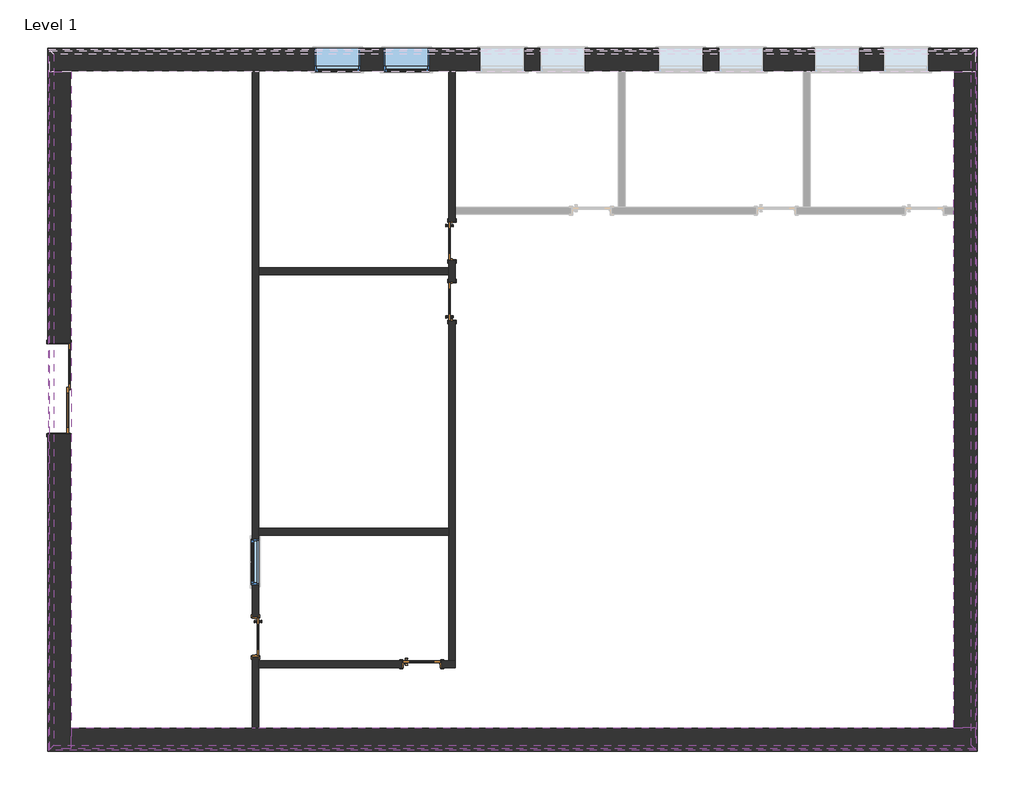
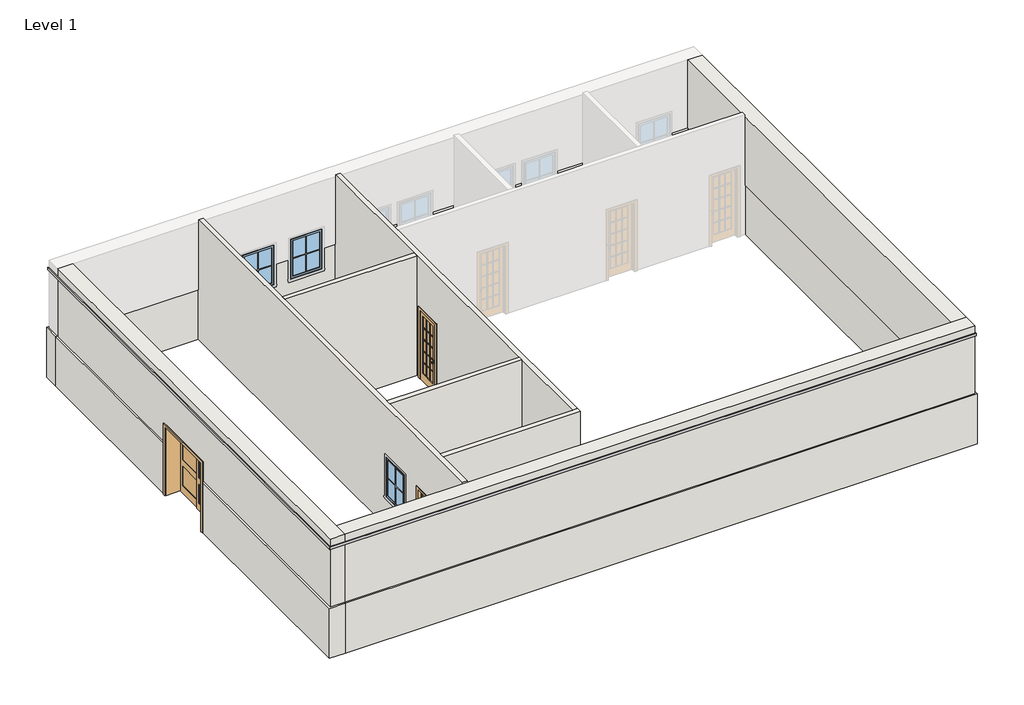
# One storey, part 1 of 2: 12 walls, 5 doors, 3 proxies, 3 windows.
"""IFC4 building model written with IfcOpenShell, lengths in millimetres."""

from ifc_helpers import new_model, si_unit, frame, origin, origin_with_axes, place, context, project, spatial, polyline, outline, extrude, faceted_brep, transform, mapped, element, save
from components import m_door_interior_double_sliding_2_panel_wood_1800_x_2100mm_ffb2e57d, m_door_interior_single_full_glass_wood_750_x_2100mm_ded28596, m_door_interior_single_full_glass_wood_750_x_2100mm_01f99739, window_awning_single_915_x_1220_b06b9331, window_awning_single_915_x_1220_806fc205

model = new_model("IFC4")

# Units and contexts
model_context = context("Model", 3, world=origin())
ifc_project = project(units=[si_unit("LENGTHUNIT", "METRE", prefix="MILLI")], contexts=[model_context])

# Site, building, storey
site = spatial("IfcSite", under=ifc_project)
building = spatial("IfcBuilding", under=site)
storey = spatial("IfcBuildingStorey", under=building, Name="Level 1", Elevation=0.0)

# Proxies
placement = place(None, origin())
element("IfcBuildingElementProxy", 1, Name="Reveals", at=placement, inside=storey, context=model_context, shape_type="SweptSolid", body=[
    extrude(outline(polyline([(-17378.8100037, -8493.7636534), (-17481.3100037, -8596.2636534), (-17481.3100037, 5536.7363466), (-17378.8100037, 5434.2363466), (-17378.8100037, -8493.7636534)])), frame((0.0, 0.0, 3300.0), z_axis=(0.0, 0.0, 1.0), x_axis=(1.0, 0.0, 0.0)), (0.0, 0.0, 1.0), 75.0),
])
element("IfcBuildingElementProxy", 2, Name="Reveals", at=placement, inside=storey, context=model_context, shape_type="SweptSolid", body=[
    extrude(outline(polyline([(1121.1899963, -8493.7636534), (1223.6899963, -8596.2636534), (-17481.3100037, -8596.2636534), (-17378.8100037, -8493.7636534), (1121.1899963, -8493.7636534)])), frame((0.0, 0.0, 3300.0), z_axis=(0.0, 0.0, 1.0), x_axis=(1.0, 0.0, 0.0)), (0.0, 0.0, 1.0), 75.0),
])
element("IfcBuildingElementProxy", 3, Name="Reveals", at=placement, inside=storey, context=model_context, shape_type="SweptSolid", body=[
    extrude(outline(polyline([(1121.1899963, 5434.2363466), (1223.6899963, 5536.7363466), (1223.6899963, -8596.2636534), (1121.1899963, -8493.7636534), (1121.1899963, 5434.2363466)])), frame((0.0, 0.0, 3300.0), z_axis=(0.0, 0.0, 1.0), x_axis=(1.0, 0.0, 0.0)), (0.0, 0.0, 1.0), 75.0),
])

# Doors
m_door_interior_double_sliding_2_panel_wood_1800_x_2100mm_shape = m_door_interior_double_sliding_2_panel_wood_1800_x_2100mm_ffb2e57d(model_context)
element("IfcDoor", 4, ObjectType="M_Door-Interior-Double-Sliding-2_Panel-Wood : 1800 x 2100mm", at=placement, inside=storey, context=model_context, shape_type="MappedRepresentation", body=[
    mapped(m_door_interior_double_sliding_2_panel_wood_1800_x_2100mm_shape, transform((-17269.6350037, -1306.0811162, 0.0), x_axis=(0.0, -1.0, 0.0), y_axis=(1.0, 0.0, 0.0), z_axis=(0.0, 0.0, 1.0))),
])
m_door_interior_single_full_glass_wood_750_x_2100mm_shape = m_door_interior_single_full_glass_wood_750_x_2100mm_ded28596(model_context)
element("IfcDoor", 5, ObjectType="M_Door-Interior-Single-Full Glass-Wood : 750 x 2100mm", at=placement, inside=storey, context=model_context, shape_type="MappedRepresentation", body=[
    mapped(m_door_interior_single_full_glass_wood_750_x_2100mm_shape, transform((-13307.6350037, -6311.9136534, 0.0), x_axis=(0.0, -1.0, 0.0), y_axis=(1.0, 0.0, 0.0), z_axis=(0.0, 0.0, 1.0))),
])
element("IfcDoor", 6, ObjectType="M_Door-Interior-Single-Full Glass-Wood : 750 x 2100mm", at=placement, inside=storey, context=model_context, shape_type="MappedRepresentation", body=[
    mapped(m_door_interior_single_full_glass_wood_750_x_2100mm_shape, transform((-9958.4100037, -6860.5886534, 0.0), x_axis=(1.0, 0.0, 0.0), y_axis=(0.0, 1.0, 0.0), z_axis=(0.0, 0.0, 1.0))),
])
element("IfcDoor", 7, ObjectType="M_Door-Interior-Single-Full Glass-Wood : 750 x 2100mm", at=placement, inside=storey, context=model_context, shape_type="MappedRepresentation", body=[
    mapped(m_door_interior_single_full_glass_wood_750_x_2100mm_shape, transform((-9351.9850037, 451.4363466, 0.0), x_axis=(0.0, 1.0, 0.0), y_axis=(-1.0, 0.0, 0.0), z_axis=(0.0, 0.0, 1.0))),
])
m_door_interior_single_full_glass_wood_750_x_2100mm_2_shape = m_door_interior_single_full_glass_wood_750_x_2100mm_01f99739(model_context)
element("IfcDoor", 8, ObjectType="M_Door-Interior-Single-Full Glass-Wood : 750 x 2100mm", at=placement, inside=storey, context=model_context, shape_type="MappedRepresentation", body=[
    mapped(m_door_interior_single_full_glass_wood_750_x_2100mm_2_shape, transform((-9351.9850037, 1670.6363466, 0.0), x_axis=(0.0, -1.0, 0.0), y_axis=(1.0, 0.0, 0.0), z_axis=(0.0, 0.0, 1.0))),
])

# Walls
element("IfcWall", 9, ObjectType="Exterior - Block on Mtl. Stud", at=placement, inside=storey, context=model_context, shape_type="Brep", body=[
    faceted_brep([(-17502.8100037, 5098.2363466, 0.0), (-17042.8100037, 5098.2363466, 0.0), (-13380.0600037, 5098.2363466, 0.0), (-13241.5600037, 5098.2363466, 0.0), (-9418.0600037, 5098.2363466, 0.0), (-9279.5600037, 5098.2363466, 0.0), (-5996.0100037, 5098.2363466, 0.0), (-5857.5100037, 5098.2363466, 0.0), (-2269.1600037, 5098.2363466, 0.0), (-2130.6600037, 5098.2363466, 0.0), (785.1899963, 5098.2363466, 0.0), (1245.1899963, 5098.2363466, 0.0), (1245.1899963, 5098.2363466, 1524.0), (785.1899963, 5098.2363466, 1524.0), (258.565007, 5098.2363466, 1524.0), (258.565007, 5098.2363466, 914.4), (-656.434993, 5098.2363466, 914.4), (-656.434993, 5098.2363466, 1524.0), (-1132.8100037, 5098.2363466, 1524.0), (-1132.8100037, 5098.2363466, 914.4), (-2047.8100037, 5098.2363466, 914.4), (-2047.8100037, 5098.2363466, 1524.0), (-2130.6600037, 5098.2363466, 1524.0), (-2269.1600037, 5098.2363466, 1524.0), (-3059.8100037, 5098.2363466, 1524.0), (-3059.8100037, 5098.2363466, 914.4), (-3974.8100037, 5098.2363466, 914.4), (-3974.8100037, 5098.2363466, 1524.0), (-4279.0100037, 5098.2363466, 1524.0), (-4279.0100037, 5098.2363466, 914.4), (-5194.0100037, 5098.2363466, 914.4), (-5194.0100037, 5098.2363466, 1524.0), (-5857.5100037, 5098.2363466, 1524.0), (-5996.0100037, 5098.2363466, 1524.0), (-6659.5100037, 5098.2363466, 1524.0), (-6659.5100037, 5098.2363466, 914.4), (-7574.5100037, 5098.2363466, 914.4), (-7574.5100037, 5098.2363466, 1524.0), (-7878.7100037, 5098.2363466, 1524.0), (-7878.7100037, 5098.2363466, 914.4), (-8793.7100037, 5098.2363466, 914.4), (-8793.7100037, 5098.2363466, 1524.0), (-9279.5600037, 5098.2363466, 1524.0), (-9418.0600037, 5098.2363466, 1524.0), (-9805.7100037, 5098.2363466, 1524.0), (-9805.7100037, 5098.2363466, 914.4), (-10720.7100037, 5098.2363466, 914.4), (-10720.7100037, 5098.2363466, 1524.0), (-11197.0850143, 5098.2363466, 1524.0), (-11197.0850143, 5098.2363466, 914.4), (-12112.0850143, 5098.2363466, 914.4), (-12112.0850143, 5098.2363466, 1524.0), (-13241.5600037, 5098.2363466, 1524.0), (-13380.0600037, 5098.2363466, 1524.0), (-17042.8100037, 5098.2363466, 1524.0), (-17502.8100037, 5098.2363466, 1524.0), (1245.1899963, 5558.2363466, 0.0), (-17502.8100037, 5558.2363466, 0.0), (-17502.8100037, 5558.2363466, 1524.0), (-12112.0850143, 5558.2363466, 1524.0), (-12112.0850143, 5558.2363466, 914.4), (-11197.0850143, 5558.2363466, 914.4), (-11197.0850143, 5558.2363466, 1524.0), (-10720.7100037, 5558.2363466, 1524.0), (-10720.7100037, 5558.2363466, 914.4), (-9805.7100037, 5558.2363466, 914.4), (-9805.7100037, 5558.2363466, 1524.0), (-8793.7100037, 5558.2363466, 1524.0), (-8793.7100037, 5558.2363466, 914.4), (-7878.7100037, 5558.2363466, 914.4), (-7878.7100037, 5558.2363466, 1524.0), (-7574.5100037, 5558.2363466, 1524.0), (-7574.5100037, 5558.2363466, 914.4), (-6659.5100037, 5558.2363466, 914.4), (-6659.5100037, 5558.2363466, 1524.0), (-5194.0100037, 5558.2363466, 1524.0), (-5194.0100037, 5558.2363466, 914.4), (-4279.0100037, 5558.2363466, 914.4), (-4279.0100037, 5558.2363466, 1524.0), (-3974.8100037, 5558.2363466, 1524.0), (-3974.8100037, 5558.2363466, 914.4), (-3059.8100037, 5558.2363466, 914.4), (-3059.8100037, 5558.2363466, 1524.0), (-2047.8100037, 5558.2363466, 1524.0), (-2047.8100037, 5558.2363466, 914.4), (-1132.8100037, 5558.2363466, 914.4), (-1132.8100037, 5558.2363466, 1524.0), (-656.434993, 5558.2363466, 1524.0), (-656.434993, 5558.2363466, 914.4), (258.565007, 5558.2363466, 914.4), (258.565007, 5558.2363466, 1524.0), (1245.1899963, 5558.2363466, 1524.0), (-12112.0850143, 5509.2363466, 1524.0), (258.565007, 5509.2363466, 1524.0), (-2047.8100037, 5509.2363466, 1524.0), (-3059.8100037, 5509.2363466, 1524.0), (-1132.8100037, 5509.2363466, 1524.0), (-656.434993, 5509.2363466, 1524.0), (-3974.8100037, 5509.2363466, 1524.0), (-4279.0100037, 5509.2363466, 1524.0), (-5194.0100037, 5509.2363466, 1524.0), (-6659.5100037, 5509.2363466, 1524.0), (-7574.5100037, 5509.2363466, 1524.0), (-7878.7100037, 5509.2363466, 1524.0), (-8793.7100037, 5509.2363466, 1524.0), (-9805.7100037, 5509.2363466, 1524.0), (-11197.0850143, 5509.2363466, 1524.0), (-10720.7100037, 5509.2363466, 1524.0)], [[[0, 1, 2, 3, 4, 5, 6, 7, 8, 9, 10, 11, 12, 13, 14, 15, 16, 17, 18, 19, 20, 21, 22, 23, 24, 25, 26, 27, 28, 29, 30, 31, 32, 33, 34, 35, 36, 37, 38, 39, 40, 41, 42, 43, 44, 45, 46, 47, 48, 49, 50, 51, 52, 53, 54, 55]], [[56, 57, 58, 59, 60, 61, 62, 63, 64, 65, 66, 67, 68, 69, 70, 71, 72, 73, 74, 75, 76, 77, 78, 79, 80, 81, 82, 83, 84, 85, 86, 87, 88, 89, 90, 91]], [[11, 10, 9, 8, 7, 6, 5, 4, 3, 2, 1, 0, 57, 56]], [[58, 55, 54, 53, 52, 51, 92, 59]], [[12, 91, 90, 93, 14, 13]], [[21, 94, 83, 82, 95, 24, 23, 22]], [[86, 96, 18, 17, 97, 87]], [[27, 98, 79, 78, 99, 28]], [[31, 100, 75, 74, 101, 34, 33, 32]], [[37, 102, 71, 70, 103, 38]], [[41, 104, 67, 66, 105, 44, 43, 42]], [[62, 106, 48, 47, 107, 63]], [[0, 55, 58, 57]], [[12, 11, 56, 91]], [[20, 84, 83, 94, 21]], [[84, 20, 19, 85]], [[85, 19, 18, 96, 86]], [[16, 88, 87, 97, 17]], [[88, 16, 15, 89]], [[89, 15, 14, 93, 90]], [[26, 80, 79, 98, 27]], [[80, 26, 25, 81]], [[81, 25, 24, 95, 82]], [[30, 76, 75, 100, 31]], [[76, 30, 29, 77]], [[77, 29, 28, 99, 78]], [[73, 35, 34, 101, 74]], [[35, 73, 72, 36]], [[36, 72, 71, 102, 37]], [[69, 39, 38, 103, 70]], [[39, 69, 68, 40]], [[40, 68, 67, 104, 41]], [[61, 49, 48, 106, 62]], [[49, 61, 60, 50]], [[50, 60, 59, 92, 51]], [[65, 45, 44, 105, 66]], [[45, 65, 64, 46]], [[46, 64, 63, 107, 47]]]),
])
element("IfcWall", 10, ObjectType="Exterior - Block on Mtl. Stud", at=placement, inside=storey, context=model_context, shape_type="Brep", body=[
    faceted_brep([(-17042.8100037, 5098.2363466, 0.0), (-17042.8100037, 5098.2363466, 1524.0), (-17042.8100037, -381.0811162, 1524.0), (-17042.8100037, -381.0811162, 0.0), (-17502.8100037, 5098.2363466, 1524.0), (-17502.8100037, 5098.2363466, 0.0), (-17502.8100037, -381.0811162, 0.0), (-17502.8100037, -381.0811162, 1524.0), (-17453.8100037, -381.0811162, 1524.0)], [[[0, 1, 2, 3]], [[4, 5, 6, 7]], [[5, 0, 3, 6]], [[1, 4, 7, 8, 2]], [[1, 0, 5, 4]], [[3, 2, 8, 7, 6]]]),
    faceted_brep([(-17042.8100037, -8617.7636534, 1524.0), (-17042.8100037, -8617.7636534, 0.0), (-17042.8100037, -8157.7636534, 0.0), (-17042.8100037, -2231.0811162, 0.0), (-17042.8100037, -2231.0811162, 1524.0), (-17042.8100037, -8157.7636534, 1524.0), (-17502.8100037, -8617.7636534, 0.0), (-17502.8100037, -8617.7636534, 1524.0), (-17502.8100037, -2231.0811162, 1524.0), (-17502.8100037, -2231.0811162, 0.0), (-17453.8100037, -2231.0811162, 1524.0)], [[[0, 1, 2, 3, 4, 5]], [[6, 7, 8, 9]], [[1, 6, 9, 3, 2]], [[7, 0, 5, 4, 10, 8]], [[1, 0, 7, 6]], [[4, 3, 9, 8, 10]]]),
])
element("IfcWall", 11, ObjectType="Exterior - Block on Mtl. Stud", at=placement, inside=storey, context=model_context, shape_type="Brep", body=[
    faceted_brep([(1245.1899963, -8157.7636534, 0.0), (785.1899963, -8157.7636534, 0.0), (-13241.5600037, -8157.7636534, 0.0), (-13380.0600037, -8157.7636534, 0.0), (-17042.8100037, -8157.7636534, 0.0), (-17042.8100037, -8157.7636534, 1524.0), (-13380.0600037, -8157.7636534, 1524.0), (-13241.5600037, -8157.7636534, 1524.0), (785.1899963, -8157.7636534, 1524.0), (1245.1899963, -8157.7636534, 1524.0), (1245.1899963, -8617.7636534, 0.0), (1245.1899963, -8617.7636534, 1524.0), (-17042.8100037, -8617.7636534, 1524.0), (-17042.8100037, -8617.7636534, 0.0)], [[[0, 1, 2, 3, 4, 5, 6, 7, 8, 9]], [[10, 11, 12, 13]], [[4, 3, 2, 1, 0, 10, 13]], [[9, 8, 7, 6, 5, 12, 11]], [[0, 9, 11, 10]], [[5, 4, 13, 12]]]),
])
element("IfcWall", 12, ObjectType="Exterior - Block on Mtl. Stud", at=placement, inside=storey, context=model_context, shape_type="Brep", body=[
    faceted_brep([(785.1899963, 5098.2363466, 0.0), (785.1899963, 2349.4863466, 0.0), (785.1899963, 2210.9863466, 0.0), (785.1899963, -8157.7636534, 0.0), (785.1899963, -8157.7636534, 1524.0), (785.1899963, 2210.9863466, 1524.0), (785.1899963, 2349.4863466, 1524.0), (785.1899963, 5098.2363466, 1524.0), (1245.1899963, 5098.2363466, 0.0), (1245.1899963, 5098.2363466, 1524.0), (1245.1899963, -8157.7636534, 1524.0), (1245.1899963, -8157.7636534, 0.0)], [[[0, 1, 2, 3, 4, 5, 6, 7]], [[8, 9, 10, 11]], [[3, 2, 1, 0, 8, 11]], [[7, 6, 5, 4, 10, 9]], [[0, 7, 9, 8]], [[4, 3, 11, 10]]]),
])
element("IfcWall", 13, ObjectType="Exterior - Render on Brick on Block", at=placement, inside=storey, context=model_context, shape_type="Brep", body=[
    faceted_brep([(-17024.8100037, 5080.2363466, 3600.0), (-17024.8100037, -8139.7636534, 3600.0), (-17024.8100037, -8568.7636534, 3600.0), (-17024.8100037, -8568.7636534, 3375.0), (-17024.8100037, -8493.7636534, 3375.0), (-17024.8100037, -8493.7636534, 3300.0), (-17024.8100037, -8568.7636534, 3300.0), (-17024.8100037, -8568.7636534, 1524.0), (-17024.8100037, -8139.7636534, 1524.0), (-17024.8100037, -2231.0811162, 1524.0), (-17024.8100037, -2231.0811162, 2125.0), (-17024.8100037, -381.0811162, 2125.0), (-17024.8100037, -381.0811162, 1524.0), (-17024.8100037, 5080.2363466, 1524.0), (-17453.8100037, -8568.7636534, 3600.0), (-17453.8100037, 5080.2363466, 3600.0), (-17453.8100037, 5080.2363466, 3375.0), (-17453.8100037, -8568.7636534, 3375.0), (-17453.8100037, -2231.0811162, 1524.0), (-17453.8100037, -8568.7636534, 1524.0), (-17453.8100037, -8568.7636534, 3300.0), (-17453.8100037, 5080.2363466, 3300.0), (-17453.8100037, 5080.2363466, 1524.0), (-17453.8100037, -381.0811162, 1524.0), (-17453.8100037, -381.0811162, 2125.0), (-17453.8100037, -2231.0811162, 2125.0), (-17428.8100037, -8568.7636534, 1524.0), (-17428.8100037, -2231.0811162, 1524.0), (-17042.8100037, -2231.0811162, 1524.0), (-17428.8100037, 5080.2363466, 1524.0), (-17042.8100037, -381.0811162, 1524.0), (-17428.8100037, -381.0811162, 1524.0), (-17378.8100037, -8493.7636534, 3300.0), (-17378.8100037, -8493.7636534, 3375.0), (-17378.8100037, 5080.2363466, 3375.0), (-17378.8100037, 5080.2363466, 3300.0)], [[[0, 1, 2, 3, 4, 5, 6, 7, 8, 9, 10, 11, 12, 13]], [[14, 15, 16, 17]], [[18, 19, 20, 21, 22, 23, 24, 25]], [[2, 1, 0, 15, 14]], [[7, 26, 27, 28, 9, 8]], [[29, 13, 12, 30, 31]], [[32, 33, 34, 35]], [[2, 14, 17, 3]], [[26, 7, 6, 20, 19]], [[0, 13, 29, 22, 21, 35, 34, 16, 15]], [[26, 19, 18, 27]], [[22, 29, 31, 23]], [[34, 33, 4, 3, 17, 16]], [[32, 35, 21, 20, 6, 5]], [[33, 32, 5, 4]], [[25, 10, 9, 28, 27, 18]], [[10, 25, 24, 11]], [[11, 24, 23, 31, 30, 12]]]),
])
element("IfcWall", 14, ObjectType="Exterior - Render on Brick on Block", at=placement, inside=storey, context=model_context, shape_type="Brep", body=[
    faceted_brep([(1196.1899963, -8139.7636534, 1524.0), (767.1899963, -8139.7636534, 1524.0), (-13241.5600037, -8139.7636534, 1524.0), (-13380.0600037, -8139.7636534, 1524.0), (-17024.8100037, -8139.7636534, 1524.0), (-17024.8100037, -8139.7636534, 3600.0), (767.1899963, -8139.7636534, 3600.0), (1196.1899963, -8139.7636534, 3600.0), (1196.1899963, -8139.7636534, 3375.0), (1121.1899963, -8139.7636534, 3375.0), (1121.1899963, -8139.7636534, 3300.0), (1196.1899963, -8139.7636534, 3300.0), (1196.1899963, -8568.7636534, 3600.0), (-17024.8100037, -8568.7636534, 3600.0), (-17024.8100037, -8568.7636534, 3375.0), (1196.1899963, -8568.7636534, 3375.0), (-17024.8100037, -8568.7636534, 1524.0), (1196.1899963, -8568.7636534, 1524.0), (1196.1899963, -8568.7636534, 3300.0), (-17024.8100037, -8568.7636534, 3300.0), (1196.1899963, -8543.7636534, 1524.0), (-17024.8100037, -8543.7636534, 1524.0), (1121.1899963, -8493.7636534, 3300.0), (1121.1899963, -8493.7636534, 3375.0), (-17024.8100037, -8493.7636534, 3375.0), (-17024.8100037, -8493.7636534, 3300.0)], [[[0, 1, 2, 3, 4, 5, 6, 7, 8, 9, 10, 11]], [[12, 13, 14, 15]], [[16, 17, 18, 19]], [[7, 6, 5, 13, 12]], [[4, 3, 2, 1, 0, 20, 21]], [[22, 23, 24, 25]], [[7, 12, 15, 8]], [[20, 0, 11, 18, 17]], [[5, 4, 21, 16, 19, 25, 24, 14, 13]], [[17, 16, 21, 20]], [[24, 23, 9, 8, 15, 14]], [[22, 25, 19, 18, 11, 10]], [[23, 22, 10, 9]]]),
])
element("IfcWall", 15, ObjectType="Exterior - Render on Brick on Block", at=placement, inside=storey, context=model_context, shape_type="Brep", body=[
    faceted_brep([(767.1899963, 5080.2363466, 1524.0), (767.1899963, 2349.4863466, 1524.0), (767.1899963, 2210.9863466, 1524.0), (767.1899963, -8139.7636534, 1524.0), (767.1899963, -8139.7636534, 3600.0), (767.1899963, 5080.2363466, 3600.0), (1196.1899963, 5080.2363466, 3600.0), (1196.1899963, -8139.7636534, 3600.0), (1196.1899963, -8139.7636534, 3375.0), (1196.1899963, 5080.2363466, 3375.0), (1196.1899963, -8139.7636534, 1524.0), (1196.1899963, 5080.2363466, 1524.0), (1196.1899963, 5080.2363466, 3300.0), (1196.1899963, -8139.7636534, 3300.0), (1171.1899963, 5080.2363466, 1524.0), (1171.1899963, -8139.7636534, 1524.0), (1121.1899963, -8139.7636534, 3300.0), (1121.1899963, 5080.2363466, 3300.0), (1121.1899963, 5080.2363466, 3375.0), (1121.1899963, -8139.7636534, 3375.0)], [[[0, 1, 2, 3, 4, 5]], [[6, 7, 8, 9]], [[10, 11, 12, 13]], [[5, 4, 7, 6]], [[3, 2, 1, 0, 14, 15]], [[16, 17, 18, 19]], [[0, 5, 6, 9, 18, 17, 12, 11, 14]], [[4, 3, 15, 10, 13, 16, 19, 8, 7]], [[11, 10, 15, 14]], [[19, 18, 9, 8]], [[17, 16, 13, 12]]]),
])
element("IfcWall", 16, ObjectType="Interior - 138mm Partition (1-hr)", at=placement, inside=storey, context=model_context, shape_type="Brep", body=[
    faceted_brep([(-13380.0600037, -8139.7636534, 3658.0), (-13380.0600037, 5080.2363466, 3658.0), (-13380.0600037, 5080.2363466, 1524.0), (-13380.0600037, 5098.2363466, 1524.0), (-13380.0600037, 5098.2363466, 0.0), (-13380.0600037, -5911.9136534, 0.0), (-13380.0600037, -5911.9136534, 2125.0), (-13380.0600037, -6711.9136534, 2125.0), (-13380.0600037, -6711.9136534, 0.0), (-13380.0600037, -8157.7636534, 0.0), (-13380.0600037, -8157.7636534, 1524.0), (-13380.0600037, -8139.7636534, 1524.0), (-13380.0600037, -4341.9136534, 2134.4), (-13380.0600037, -5256.9136534, 2134.4), (-13380.0600037, -5256.9136534, 914.4), (-13380.0600037, -4341.9136534, 914.4), (-13241.5600037, 5080.2363466, 3658.0), (-13241.5600037, 1130.2863466, 3658.0), (-13241.5600037, 991.7863466, 3658.0), (-13241.5600037, -4120.5636534, 3658.0), (-13241.5600037, -4259.0636534, 3658.0), (-13241.5600037, -6794.5136534, 3658.0), (-13241.5600037, -6933.0136534, 3658.0), (-13241.5600037, -8139.7636534, 3658.0), (-13241.5600037, -8139.7636534, 1524.0), (-13241.5600037, -8157.7636534, 1524.0), (-13241.5600037, -8157.7636534, 0.0), (-13241.5600037, -6933.0136534, 0.0), (-13241.5600037, -6794.5136534, 0.0), (-13241.5600037, -6711.9136534, 0.0), (-13241.5600037, -6711.9136534, 2125.0), (-13241.5600037, -5911.9136534, 2125.0), (-13241.5600037, -5911.9136534, 0.0), (-13241.5600037, -4259.0636534, 0.0), (-13241.5600037, -4120.5636534, 0.0), (-13241.5600037, 991.7863466, 0.0), (-13241.5600037, 1130.2863466, 0.0), (-13241.5600037, 5098.2363466, 0.0), (-13241.5600037, 5098.2363466, 1524.0), (-13241.5600037, 5080.2363466, 1524.0), (-13241.5600037, -4341.9136534, 2134.4), (-13241.5600037, -4341.9136534, 914.4), (-13241.5600037, -5256.9136534, 914.4), (-13241.5600037, -5256.9136534, 2134.4)], [[[0, 1, 2, 3, 4, 5, 6, 7, 8, 9, 10, 11], [12, 13, 14, 15]], [[16, 17, 18, 19, 20, 21, 22, 23, 24, 25, 26, 27, 28, 29, 30, 31, 32, 33, 34, 35, 36, 37, 38, 39], [40, 41, 42, 43]], [[4, 37, 36, 35, 34, 33, 32, 5]], [[26, 9, 8, 29, 28, 27]], [[1, 0, 23, 22, 21, 20, 19, 18, 17, 16]], [[39, 38, 3, 2]], [[4, 3, 38, 37]], [[2, 1, 16, 39]], [[11, 10, 25, 24]], [[10, 9, 26, 25]], [[0, 11, 24, 23]], [[7, 30, 29, 8]], [[30, 7, 6, 31]], [[31, 6, 5, 32]], [[41, 40, 12, 15]], [[42, 41, 15, 14]], [[43, 42, 14, 13]], [[40, 43, 13, 12]]]),
])
element("IfcWall", 17, ObjectType="Interior - 138mm Partition (1-hr)", at=placement, inside=storey, context=model_context, shape_type="Brep", body=[
    faceted_brep([(-9279.5600037, -6933.0136534, 3658.0), (-13241.5600037, -6933.0136534, 3658.0), (-13241.5600037, -6933.0136534, 0.0), (-10358.4100037, -6933.0136534, 0.0), (-10358.4100037, -6933.0136534, 2125.0), (-9558.4100037, -6933.0136534, 2125.0), (-9558.4100037, -6933.0136534, 0.0), (-9279.5600037, -6933.0136534, 0.0), (-13241.5600037, -6794.5136534, 3658.0), (-9418.0600037, -6794.5136534, 3658.0), (-9279.5600037, -6794.5136534, 3658.0), (-9279.5600037, -6794.5136534, 0.0), (-9418.0600037, -6794.5136534, 0.0), (-9558.4100037, -6794.5136534, 0.0), (-9558.4100037, -6794.5136534, 2125.0), (-10358.4100037, -6794.5136534, 2125.0), (-10358.4100037, -6794.5136534, 0.0), (-13241.5600037, -6794.5136534, 0.0)], [[[0, 1, 2, 3, 4, 5, 6, 7]], [[8, 9, 10, 11, 12, 13, 14, 15, 16, 17]], [[2, 17, 16, 3]], [[11, 7, 6, 13, 12]], [[1, 0, 10, 9, 8]], [[2, 1, 8, 17]], [[0, 7, 11, 10]], [[5, 14, 13, 6]], [[14, 5, 4, 15]], [[15, 4, 3, 16]]]),
])
element("IfcWall", 18, ObjectType="Interior - 138mm Partition (1-hr)", at=placement, inside=storey, context=model_context, shape_type="Brep", body=[
    faceted_brep([(-9279.5600037, 5080.2363466, 3658.0), (-9279.5600037, 2349.4863466, 3658.0), (-9279.5600037, 2210.9863466, 3658.0), (-9279.5600037, -6794.5136534, 3658.0), (-9279.5600037, -6794.5136534, 0.0), (-9279.5600037, 51.4363466, 0.0), (-9279.5600037, 51.4363466, 2125.0), (-9279.5600037, 851.4363466, 2125.0), (-9279.5600037, 851.4363466, 0.0), (-9279.5600037, 1270.6363466, 0.0), (-9279.5600037, 1270.6363466, 2125.0), (-9279.5600037, 2070.6363466, 2125.0), (-9279.5600037, 2070.6363466, 0.0), (-9279.5600037, 2210.9863466, 0.0), (-9279.5600037, 2349.4863466, 0.0), (-9279.5600037, 5098.2363466, 0.0), (-9279.5600037, 5098.2363466, 1524.0), (-9279.5600037, 5080.2363466, 1524.0), (-9418.0600037, -6794.5136534, 3658.0), (-9418.0600037, -4259.0636534, 3658.0), (-9418.0600037, -4120.5636534, 3658.0), (-9418.0600037, 991.7863466, 3658.0), (-9418.0600037, 1130.2863466, 3658.0), (-9418.0600037, 5080.2363466, 3658.0), (-9418.0600037, 5080.2363466, 1524.0), (-9418.0600037, 5098.2363466, 1524.0), (-9418.0600037, 5098.2363466, 0.0), (-9418.0600037, 2070.6363466, 0.0), (-9418.0600037, 2070.6363466, 2125.0), (-9418.0600037, 1270.6363466, 2125.0), (-9418.0600037, 1270.6363466, 0.0), (-9418.0600037, 1130.2863466, 0.0), (-9418.0600037, 991.7863466, 0.0), (-9418.0600037, 851.4363466, 0.0), (-9418.0600037, 851.4363466, 2125.0), (-9418.0600037, 51.4363466, 2125.0), (-9418.0600037, 51.4363466, 0.0), (-9418.0600037, -4120.5636534, 0.0), (-9418.0600037, -4259.0636534, 0.0), (-9418.0600037, -6794.5136534, 0.0)], [[[0, 1, 2, 3, 4, 5, 6, 7, 8, 9, 10, 11, 12, 13, 14, 15, 16, 17]], [[18, 19, 20, 21, 22, 23, 24, 25, 26, 27, 28, 29, 30, 31, 32, 33, 34, 35, 36, 37, 38, 39]], [[4, 39, 38, 37, 36, 5]], [[26, 15, 14, 13, 12, 27]], [[8, 33, 32, 31, 30, 9]], [[3, 2, 1, 0, 23, 22, 21, 20, 19, 18]], [[4, 3, 18, 39]], [[17, 16, 25, 24]], [[16, 15, 26, 25]], [[0, 17, 24, 23]], [[7, 34, 33, 8]], [[34, 7, 6, 35]], [[35, 6, 5, 36]], [[29, 10, 9, 30]], [[10, 29, 28, 11]], [[11, 28, 27, 12]]]),
])
element("IfcWall", 19, ObjectType="Interior - 138mm Partition (1-hr)", at=placement, inside=storey, context=model_context, shape_type="SweptSolid", body=[
    extrude(outline(polyline([(-9418.0600037, 991.7863466), (-13241.5600037, 991.7863466), (-13241.5600037, 1130.2863466), (-9418.0600037, 1130.2863466), (-9418.0600037, 991.7863466)])), origin_with_axes(), (0.0, 0.0, 1.0), 3658.0),
])
element("IfcWall", 20, ObjectType="Interior - 138mm Partition (1-hr)", at=placement, inside=storey, context=model_context, shape_type="SweptSolid", body=[
    extrude(outline(polyline([(-9418.0600037, -4259.0636534), (-13241.5600037, -4259.0636534), (-13241.5600037, -4120.5636534), (-9418.0600037, -4120.5636534), (-9418.0600037, -4259.0636534)])), origin_with_axes(), (0.0, 0.0, 1.0), 3658.0),
])

# Windows
window_awning_single_915_x_1220_shape = window_awning_single_915_x_1220_b06b9331(model_context)
element("IfcWindow", 21, ObjectType="Window-Awning-Single : 915 X 1220", at=placement, inside=storey, context=model_context, shape_type="MappedRepresentation", body=[
    mapped(window_awning_single_915_x_1220_shape, transform((-13310.8100037, -4799.4136534, 0.0), x_axis=(0.0, 1.0, 0.0), y_axis=(-1.0, 0.0, 0.0), z_axis=(0.0, 0.0, 1.0))),
])
window_awning_single_915_x_1220_2_shape = window_awning_single_915_x_1220_806fc205(model_context)
element("IfcWindow", 22, ObjectType="Window-Awning-Single : 915 X 1220", at=placement, inside=storey, context=model_context, shape_type="MappedRepresentation", body=[
    mapped(window_awning_single_915_x_1220_2_shape, transform((-10263.2100037, 5328.2363466, 0.0), x_axis=(1.0, 0.0, 0.0), y_axis=(0.0, 1.0, 0.0), z_axis=(0.0, 0.0, 1.0))),
])
element("IfcWindow", 23, ObjectType="Window-Awning-Single : 915 X 1220", at=placement, inside=storey, context=model_context, shape_type="MappedRepresentation", body=[
    mapped(window_awning_single_915_x_1220_2_shape, transform((-11654.5850143, 5328.2363466, 0.0), x_axis=(1.0, 0.0, 0.0), y_axis=(0.0, 1.0, 0.0), z_axis=(0.0, 0.0, 1.0))),
])

save(model, "model.ifc")
